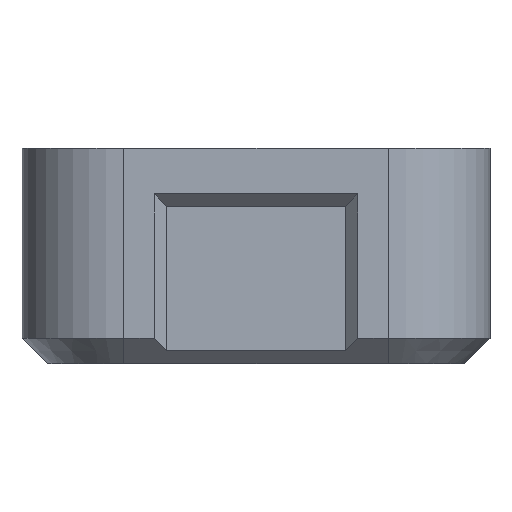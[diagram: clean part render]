
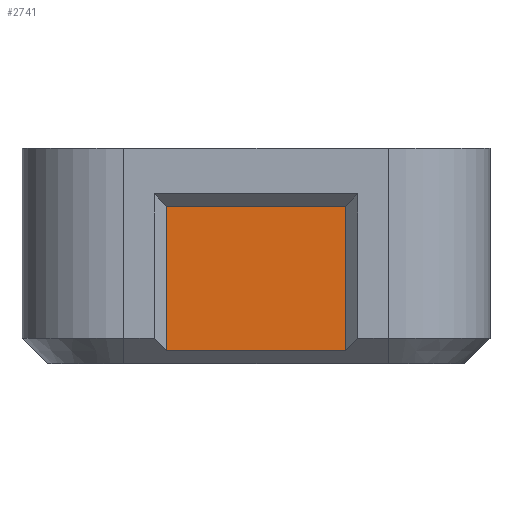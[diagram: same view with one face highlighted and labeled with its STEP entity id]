
A CAD part, front view. The second image highlights one B-rep face of the part: STEP entity #2741.
In plain terms, the highlighted planar face has unit normal (0, -1, 0).
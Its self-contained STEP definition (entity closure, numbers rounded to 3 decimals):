
#44 = PLANE('',#45);
#45 = AXIS2_PLACEMENT_3D('',#46,#47,#48);
#46 = CARTESIAN_POINT('',(36.,1.25,1.25));
#47 = DIRECTION('',(0.,-0.707,-0.707));
#48 = DIRECTION('',(-1.,-0.,0.));
#178 = PLANE('',#179);
#179 = AXIS2_PLACEMENT_3D('',#180,#181,#182);
#180 = CARTESIAN_POINT('',(31.8,1.2,-2.));
#181 = DIRECTION('',(0.707,0.707,-0.));
#182 = DIRECTION('',(0.707,-0.707,0.));
#204 = PLANE('',#205);
#205 = AXIS2_PLACEMENT_3D('',#206,#207,#208);
#206 = CARTESIAN_POINT('',(11.,1.2,15.5));
#207 = DIRECTION('',(0.,-0.707,-0.707));
#208 = DIRECTION('',(0.,-0.707,0.707));
#228 = PLANE('',#229);
#229 = AXIS2_PLACEMENT_3D('',#230,#231,#232);
#230 = CARTESIAN_POINT('',(12.,-1.,-2.));
#231 = DIRECTION('',(-0.707,0.707,0.));
#232 = DIRECTION('',(0.707,0.707,0.));
#270 = VERTEX_POINT('',#271);
#271 = CARTESIAN_POINT('',(31.8,1.2,1.3));
#290 = EDGE_CURVE('',#270,#291,#293,.T.);
#291 = VERTEX_POINT('',#292);
#292 = CARTESIAN_POINT('',(14.2,1.2,1.3));
#293 = SURFACE_CURVE('',#294,(#298,#304),.PCURVE_S1.);
#294 = LINE('',#295,#296);
#295 = CARTESIAN_POINT('',(23.5,1.2,1.3));
#296 = VECTOR('',#297,1.);
#297 = DIRECTION('',(-1.,-0.,0.));
#298 = PCURVE('',#44,#299);
#299 = DEFINITIONAL_REPRESENTATION('',(#300),#303);
#300 = B_SPLINE_CURVE_WITH_KNOTS('',1,(#301,#302),.UNSPECIFIED.,.F.,.F.,
  (2,2),(-8.3,9.3),.PIECEWISE_BEZIER_KNOTS.);
#301 = CARTESIAN_POINT('',(4.2,-0.071));
#302 = CARTESIAN_POINT('',(21.8,-0.071));
#303 = ( GEOMETRIC_REPRESENTATION_CONTEXT(2) 
PARAMETRIC_REPRESENTATION_CONTEXT() REPRESENTATION_CONTEXT('2D SPACE',''
  ) );
#304 = PCURVE('',#305,#310);
#305 = PLANE('',#306);
#306 = AXIS2_PLACEMENT_3D('',#307,#308,#309);
#307 = CARTESIAN_POINT('',(11.,1.2,-1.));
#308 = DIRECTION('',(0.,-1.,0.));
#309 = DIRECTION('',(0.,0.,1.));
#310 = DEFINITIONAL_REPRESENTATION('',(#311),#314);
#311 = B_SPLINE_CURVE_WITH_KNOTS('',1,(#312,#313),.UNSPECIFIED.,.F.,.F.,
  (2,2),(-8.3,9.3),.PIECEWISE_BEZIER_KNOTS.);
#312 = CARTESIAN_POINT('',(2.3,-20.8));
#313 = CARTESIAN_POINT('',(2.3,-3.2));
#314 = ( GEOMETRIC_REPRESENTATION_CONTEXT(2) 
PARAMETRIC_REPRESENTATION_CONTEXT() REPRESENTATION_CONTEXT('2D SPACE',''
  ) );
#391 = EDGE_CURVE('',#291,#392,#394,.T.);
#392 = VERTEX_POINT('',#393);
#393 = CARTESIAN_POINT('',(14.2,1.2,15.5));
#394 = SURFACE_CURVE('',#395,(#399,#406),.PCURVE_S1.);
#395 = LINE('',#396,#397);
#396 = CARTESIAN_POINT('',(14.2,1.2,-2.));
#397 = VECTOR('',#398,1.);
#398 = DIRECTION('',(0.,0.,1.));
#399 = PCURVE('',#228,#400);
#400 = DEFINITIONAL_REPRESENTATION('',(#401),#405);
#401 = LINE('',#402,#403);
#402 = CARTESIAN_POINT('',(3.111,0.));
#403 = VECTOR('',#404,1.);
#404 = DIRECTION('',(0.,-1.));
#405 = ( GEOMETRIC_REPRESENTATION_CONTEXT(2) 
PARAMETRIC_REPRESENTATION_CONTEXT() REPRESENTATION_CONTEXT('2D SPACE',''
  ) );
#406 = PCURVE('',#305,#407);
#407 = DEFINITIONAL_REPRESENTATION('',(#408),#412);
#408 = LINE('',#409,#410);
#409 = CARTESIAN_POINT('',(-1.,-3.2));
#410 = VECTOR('',#411,1.);
#411 = DIRECTION('',(1.,0.));
#412 = ( GEOMETRIC_REPRESENTATION_CONTEXT(2) 
PARAMETRIC_REPRESENTATION_CONTEXT() REPRESENTATION_CONTEXT('2D SPACE',''
  ) );
#440 = EDGE_CURVE('',#392,#441,#443,.T.);
#441 = VERTEX_POINT('',#442);
#442 = CARTESIAN_POINT('',(31.8,1.2,15.5));
#443 = SURFACE_CURVE('',#444,(#448,#455),.PCURVE_S1.);
#444 = LINE('',#445,#446);
#445 = CARTESIAN_POINT('',(11.,1.2,15.5));
#446 = VECTOR('',#447,1.);
#447 = DIRECTION('',(1.,0.,0.));
#448 = PCURVE('',#204,#449);
#449 = DEFINITIONAL_REPRESENTATION('',(#450),#454);
#450 = LINE('',#451,#452);
#451 = CARTESIAN_POINT('',(0.,0.));
#452 = VECTOR('',#453,1.);
#453 = DIRECTION('',(0.,-1.));
#454 = ( GEOMETRIC_REPRESENTATION_CONTEXT(2) 
PARAMETRIC_REPRESENTATION_CONTEXT() REPRESENTATION_CONTEXT('2D SPACE',''
  ) );
#455 = PCURVE('',#305,#456);
#456 = DEFINITIONAL_REPRESENTATION('',(#457),#461);
#457 = LINE('',#458,#459);
#458 = CARTESIAN_POINT('',(16.5,0.));
#459 = VECTOR('',#460,1.);
#460 = DIRECTION('',(0.,-1.));
#461 = ( GEOMETRIC_REPRESENTATION_CONTEXT(2) 
PARAMETRIC_REPRESENTATION_CONTEXT() REPRESENTATION_CONTEXT('2D SPACE',''
  ) );
#486 = EDGE_CURVE('',#270,#441,#487,.T.);
#487 = SURFACE_CURVE('',#488,(#492,#499),.PCURVE_S1.);
#488 = LINE('',#489,#490);
#489 = CARTESIAN_POINT('',(31.8,1.2,-2.));
#490 = VECTOR('',#491,1.);
#491 = DIRECTION('',(0.,0.,1.));
#492 = PCURVE('',#178,#493);
#493 = DEFINITIONAL_REPRESENTATION('',(#494),#498);
#494 = LINE('',#495,#496);
#495 = CARTESIAN_POINT('',(0.,0.));
#496 = VECTOR('',#497,1.);
#497 = DIRECTION('',(0.,-1.));
#498 = ( GEOMETRIC_REPRESENTATION_CONTEXT(2) 
PARAMETRIC_REPRESENTATION_CONTEXT() REPRESENTATION_CONTEXT('2D SPACE',''
  ) );
#499 = PCURVE('',#305,#500);
#500 = DEFINITIONAL_REPRESENTATION('',(#501),#505);
#501 = LINE('',#502,#503);
#502 = CARTESIAN_POINT('',(-1.,-20.8));
#503 = VECTOR('',#504,1.);
#504 = DIRECTION('',(1.,0.));
#505 = ( GEOMETRIC_REPRESENTATION_CONTEXT(2) 
PARAMETRIC_REPRESENTATION_CONTEXT() REPRESENTATION_CONTEXT('2D SPACE',''
  ) );
#2741 = ADVANCED_FACE('',(#2742),#305,.T.);
#2742 = FACE_BOUND('',#2743,.T.);
#2743 = EDGE_LOOP('',(#2744,#2745,#2746,#2747));
#2744 = ORIENTED_EDGE('',*,*,#391,.F.);
#2745 = ORIENTED_EDGE('',*,*,#290,.F.);
#2746 = ORIENTED_EDGE('',*,*,#486,.T.);
#2747 = ORIENTED_EDGE('',*,*,#440,.F.);
